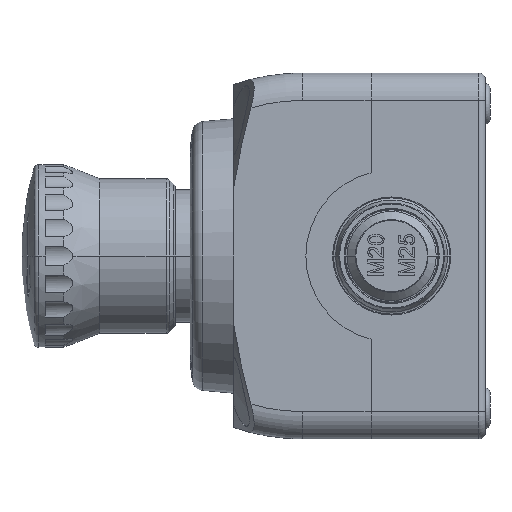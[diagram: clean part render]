
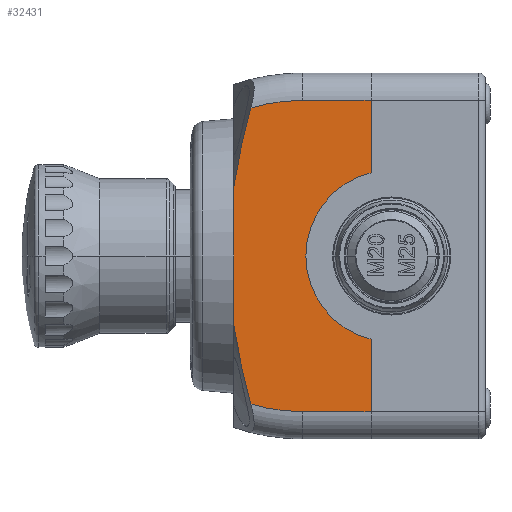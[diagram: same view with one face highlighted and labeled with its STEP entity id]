
A CAD part, left-side view. The second image highlights one B-rep face of the part: STEP entity #32431.
In plain terms, the highlighted planar face has unit normal (-1, 0, 0) as drawn and (0, 0, -1) by its records, which use the part's own axes.
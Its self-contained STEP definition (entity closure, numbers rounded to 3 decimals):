
#1803 = DIRECTION ( 'NONE',  ( -1., 0., 0. ) ) ;
#2361 = VERTEX_POINT ( 'NONE', #9338 ) ;
#2413 = VERTEX_POINT ( 'NONE', #9477 ) ;
#3213 = VERTEX_POINT ( 'NONE', #25726 ) ;
#3860 = LINE ( 'NONE', #13797, #29095 ) ;
#3976 = ORIENTED_EDGE ( 'NONE', *, *, #27915, .F. ) ;
#4592 = VERTEX_POINT ( 'NONE', #38310 ) ;
#5852 = B_SPLINE_CURVE_WITH_KNOTS ( 'NONE', 3,
 ( #27537, #40686, #30848, #11114, #34152, #14401 ),
 .UNSPECIFIED., .F., .F.,
 ( 4, 2, 4 ),
 ( 0.04, 0.049, 0.058 ),
 .UNSPECIFIED. ) ;
#6493 = LINE ( 'NONE', #11868, #20870 ) ;
#6987 = CARTESIAN_POINT ( 'NONE',  ( 0., 15., -36. ) ) ;
#7200 = ORIENTED_EDGE ( 'NONE', *, *, #33127, .F. ) ;
#7278 = CARTESIAN_POINT ( 'NONE',  ( 6.25, 0., -36. ) ) ;
#8708 = ORIENTED_EDGE ( 'NONE', *, *, #31350, .T. ) ;
#9338 = CARTESIAN_POINT ( 'NONE',  ( 15.124, 15., -36. ) ) ;
#9477 = CARTESIAN_POINT ( 'NONE',  ( 32.396, 11.249, -36. ) ) ;
#9483 = AXIS2_PLACEMENT_3D ( 'NONE', #41296, #21485, #1803 ) ;
#9662 = LINE ( 'NONE', #15032, #10715 ) ;
#10292 = DIRECTION ( 'NONE',  ( -1., 0., 0. ) ) ;
#10603 = DIRECTION ( 'NONE',  ( 0., 0., -1. ) ) ;
#10715 = VECTOR ( 'NONE', #41461, 1000. ) ;
#11114 = CARTESIAN_POINT ( 'NONE',  ( -26.709, 12.744, -36. ) ) ;
#11799 = EDGE_CURVE ( 'NONE', #42347, #20365, #3860, .T. ) ;
#11868 = CARTESIAN_POINT ( 'NONE',  ( -34., -15., -36. ) ) ;
#12149 = CARTESIAN_POINT ( 'NONE',  ( 18.056, 14.56, -36. ) ) ;
#12303 = CARTESIAN_POINT ( 'NONE',  ( 0., -15., -36. ) ) ;
#12640 = CARTESIAN_POINT ( 'NONE',  ( 34., 0., -36. ) ) ;
#13797 = CARTESIAN_POINT ( 'NONE',  ( 34., -15., -36. ) ) ;
#14176 = EDGE_LOOP ( 'NONE', ( #17958, #17430, #3976, #7200, #38328, #27845, #28865, #8708, #33906, #41142 ) ) ;
#14401 = CARTESIAN_POINT ( 'NONE',  ( -32.396, 11.249, -36. ) ) ;
#14487 = VERTEX_POINT ( 'NONE', #20098 ) ;
#15032 = CARTESIAN_POINT ( 'NONE',  ( 0., -15., -36. ) ) ;
#15160 = DIRECTION ( 'NONE',  ( 0., -1., 0. ) ) ;
#15431 = CARTESIAN_POINT ( 'NONE',  ( 26.709, 12.744, -36. ) ) ;
#16913 = VECTOR ( 'NONE', #10292, 1000. ) ;
#17056 = PLANE ( 'NONE',  #41028 ) ;
#17430 = ORIENTED_EDGE ( 'NONE', *, *, #24356, .F. ) ;
#17958 = ORIENTED_EDGE ( 'NONE', *, *, #27024, .T. ) ;
#18421 = CARTESIAN_POINT ( 'NONE',  ( 6.25, 0., -36. ) ) ;
#18742 = CARTESIAN_POINT ( 'NONE',  ( 32.396, 11.249, -36. ) ) ;
#18852 = CARTESIAN_POINT ( 'NONE',  ( 0., -19.5, -36. ) ) ;
#19255 = CIRCLE ( 'NONE', #33314, 40.25 ) ;
#20073 = CARTESIAN_POINT ( 'NONE',  ( 34., -15., -36. ) ) ;
#20098 = CARTESIAN_POINT ( 'NONE',  ( -32.396, 11.249, -36. ) ) ;
#20365 = VERTEX_POINT ( 'NONE', #20073 ) ;
#20392 = VERTEX_POINT ( 'NONE', #29924 ) ;
#20870 = VECTOR ( 'NONE', #15160, 1000. ) ;
#21406 = CIRCLE ( 'NONE', #9483, 40.25 ) ;
#21485 = DIRECTION ( 'NONE',  ( 0., 0., -1. ) ) ;
#21725 = DIRECTION ( 'NONE',  ( 1., 0., 0. ) ) ;
#22152 = DIRECTION ( 'NONE',  ( 1., 0., 0. ) ) ;
#23750 = AXIS2_PLACEMENT_3D ( 'NONE', #18852, #41964, #22152 ) ;
#24356 = EDGE_CURVE ( 'NONE', #20392, #3213, #28807, .T. ) ;
#24481 = EDGE_CURVE ( 'NONE', #2361, #26646, #24670, .T. ) ;
#24670 = LINE ( 'NONE', #6987, #16913 ) ;
#25707 = DIRECTION ( 'NONE',  ( 1., 0., 0. ) ) ;
#25726 = CARTESIAN_POINT ( 'NONE',  ( -18.202, -15., -36. ) ) ;
#26646 = VERTEX_POINT ( 'NONE', #27616 ) ;
#27024 = EDGE_CURVE ( 'NONE', #4592, #3213, #28205, .T. ) ;
#27537 = CARTESIAN_POINT ( 'NONE',  ( -15.124, 15., -36. ) ) ;
#27616 = CARTESIAN_POINT ( 'NONE',  ( -15.124, 15., -36. ) ) ;
#27778 = VECTOR ( 'NONE', #25707, 1000. ) ;
#27845 = ORIENTED_EDGE ( 'NONE', *, *, #24481, .F. ) ;
#27915 = EDGE_CURVE ( 'NONE', #30689, #20392, #6493, .T. ) ;
#28205 = CIRCLE ( 'NONE', #23750, 18.75 ) ;
#28807 = LINE ( 'NONE', #12303, #27778 ) ;
#28865 = ORIENTED_EDGE ( 'NONE', *, *, #32670, .T. ) ;
#29095 = VECTOR ( 'NONE', #36868, 1000. ) ;
#29924 = CARTESIAN_POINT ( 'NONE',  ( -34., -15., -36. ) ) ;
#30116 = EDGE_CURVE ( 'NONE', #20365, #4592, #9662, .T. ) ;
#30689 = VERTEX_POINT ( 'NONE', #36013 ) ;
#30848 = CARTESIAN_POINT ( 'NONE',  ( -20.957, 14.01, -36. ) ) ;
#31350 = EDGE_CURVE ( 'NONE', #2413, #42347, #21406, .T. ) ;
#31796 = EDGE_CURVE ( 'NONE', #26646, #14487, #5852, .T. ) ;
#32431 = ADVANCED_FACE ( 'NONE', ( #34800 ), #17056, .T. ) ;
#32670 = EDGE_CURVE ( 'NONE', #2361, #2413, #34621, .T. ) ;
#33127 = EDGE_CURVE ( 'NONE', #14487, #30689, #19255, .T. ) ;
#33314 = AXIS2_PLACEMENT_3D ( 'NONE', #18421, #41536, #21725 ) ;
#33648 = DIRECTION ( 'NONE',  ( 1., 0., 0. ) ) ;
#33906 = ORIENTED_EDGE ( 'NONE', *, *, #11799, .T. ) ;
#34152 = CARTESIAN_POINT ( 'NONE',  ( -29.561, 12.027, -36. ) ) ;
#34621 = B_SPLINE_CURVE_WITH_KNOTS ( 'NONE', 3,
 ( #41714, #12149, #35188, #15431, #38555, #18742 ),
 .UNSPECIFIED., .F., .F.,
 ( 4, 2, 4 ),
 ( 0.04, 0.049, 0.058 ),
 .UNSPECIFIED. ) ;
#34800 = FACE_OUTER_BOUND ( 'NONE', #14176, .T. ) ;
#35188 = CARTESIAN_POINT ( 'NONE',  ( 20.957, 14.01, -36. ) ) ;
#36013 = CARTESIAN_POINT ( 'NONE',  ( -34., 0., -36. ) ) ;
#36868 = DIRECTION ( 'NONE',  ( 0., -1., 0. ) ) ;
#38310 = CARTESIAN_POINT ( 'NONE',  ( 18.202, -15., -36. ) ) ;
#38328 = ORIENTED_EDGE ( 'NONE', *, *, #31796, .F. ) ;
#38555 = CARTESIAN_POINT ( 'NONE',  ( 29.561, 12.027, -36. ) ) ;
#40686 = CARTESIAN_POINT ( 'NONE',  ( -18.056, 14.56, -36. ) ) ;
#41028 = AXIS2_PLACEMENT_3D ( 'NONE', #7278, #10603, #33648 ) ;
#41142 = ORIENTED_EDGE ( 'NONE', *, *, #30116, .T. ) ;
#41296 = CARTESIAN_POINT ( 'NONE',  ( -6.25, 0., -36. ) ) ;
#41461 = DIRECTION ( 'NONE',  ( -1., 0., 0. ) ) ;
#41536 = DIRECTION ( 'NONE',  ( 0., 0., 1. ) ) ;
#41714 = CARTESIAN_POINT ( 'NONE',  ( 15.124, 15., -36. ) ) ;
#41964 = DIRECTION ( 'NONE',  ( 0., 0., 1. ) ) ;
#42347 = VERTEX_POINT ( 'NONE', #12640 ) ;
